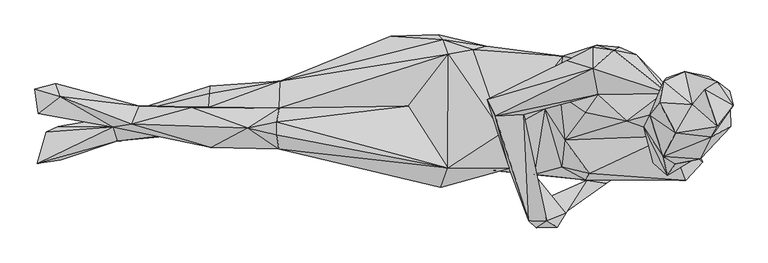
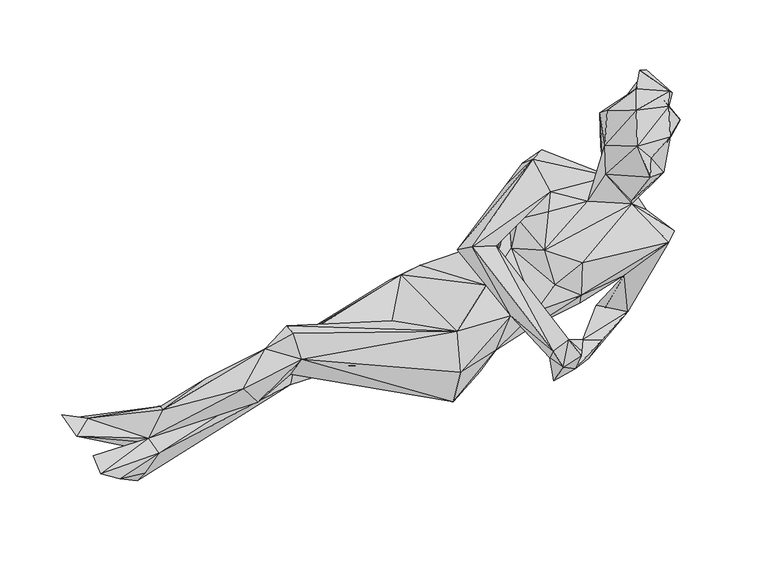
"""IFC4 building model written with IfcOpenShell, lengths in millimetres: geographic element geometry, Enscape AssetDefinition - Asya, Lying : Enscape AssetDefinition - Asya, Lying."""

from ifc_helpers import new_model, si_unit, origin, place, context, project, spatial, faceted_brep, source, transform, mapped, element, save


def geographic_element_3ec232f4(model_context):
    return source(origin(), model_context, "Body", "Brep", [
        faceted_brep([(-295.1279283, 1.0042854, 263.5008693), (80.7586461, -99.4649455, 178.1118065), (-6.4246482, 36.7893986, 155.0975889), (199.4558573, -22.1141279, 213.3183777), (81.8750635, 150.1486152, 178.2011241), (-290.825963, -57.5796925, 208.4964067), (-295.2073216, -27.6178494, 261.2194121), (215.4489905, -100.5823612, 173.7344414), (65.2160347, -141.8870687, 99.964112), (-289.8187041, 31.6131599, 181.9860488), (-358.0476046, -11.9035607, 232.08718), (-480.9644222, 33.1354663, 168.9978242), (-612.4712229, -2.9106415, 151.7612189), (-438.3080602, -54.1728623, 178.3360839), (-595.9749222, 36.3706127, 131.2517673), (-769.7321773, 56.9763258, 146.9739974), (-654.0368795, -9.6776597, 93.7399268), (-788.8275385, 78.7093788, 116.9674993), (-671.4203954, 46.5514064, 42.6196121), (-444.8795915, 32.9965316, 133.5580498), (-649.5782137, 13.0398329, 67.6979721), (-779.2798877, 86.1958712, 136.0380054), (-818.0112839, 20.0966243, 138.9456689), (-825.2963424, 73.4775737, 166.3571), (-687.8233552, -20.413192, -2.9711765), (-774.0758061, -8.9542167, 49.8937331), (-443.241179, 63.7651756, 120.9588349), (-441.6027665, 79.8516124, 86.9222954), (-820.2164173, -89.6046832, 105.1651537), (-800.1406193, -20.3328095, 103.7262157), (-644.6381211, -39.8816429, 68.2854578), (-768.3855891, -82.513161, 69.3949312), (-275.0422359, 2.4452168, 146.8310952), (-397.3804712, -48.3615063, 124.5849878), (-684.9961281, -49.0611307, 33.623714), (-290.4498875, -6.5199165, 108.8905409), (-438.3259416, 36.9491689, 40.2855426), (-276.5168846, 62.038444, 82.8604922), (-109.3063429, 52.4262786, 59.1109321), (-287.0509923, 91.1954716, 131.7658126), (57.8982458, 95.5976471, -11.4798164), (-45.2573523, 189.7097081, 64.9401546), (15.5039039, 27.1425005, 31.9267511), (137.5126839, 151.5806168, 30.8490284), (93.768701, -62.4026433, -1.8378821), (151.6044289, 101.6382575, -5.2973079), (-306.8568408, -36.2733603, 159.8987132), (49.6734232, -136.0112131, 21.8174048), (160.6439799, -62.5326484, 20.915335), (195.7731396, -49.4779274, 64.3725172), (189.7374988, 117.8546846, 70.2840984), (175.5018532, -105.2505001, 97.490117), (270.0227797, -114.2136529, 173.3265668), (381.5381527, -125.5753785, 185.634017), (300.3776073, -164.0369147, 117.8755239), (257.9783201, -215.6494558, 133.6255372), (184.9085987, 14.7050405, 300.0799119), (167.122215, 50.1100719, 276.5139341), (259.4370842, -196.4578778, 103.168495), (339.5983279, -199.8140961, 95.0409248), (384.7058415, -126.6610324, 65.1902333), (266.8471634, -203.0055821, 42.7208357), (274.151057, -231.455043, 94.5993289), (381.5063834, -154.3136239, 32.4834734), (315.269202, -213.6994302, 65.5216873), (320.3313351, -229.63503, 107.8862548), (297.6614833, -215.3428048, 149.6573836), (428.0885756, -134.0036243, 54.2840101), (246.7277348, 17.4549166, 278.9273858), (292.7482128, 30.0719962, 249.0369827), (329.996109, -97.6736993, 215.0163203), (336.8385434, -37.9266627, 269.7876096), (321.113348, 89.5133838, 277.708739), (326.3768852, 60.5766699, 296.5569496), (391.0163641, -111.9133234, 261.3672614), (472.3694324, 3.2639278, 328.6494315), (565.7451749, -29.0429033, 309.3893826), (382.009536, 21.6566417, 321.260184), (409.4845057, 61.1899607, 340.9310877), (397.9699314, 118.2992682, 398.7042904), (563.482523, 64.2772466, 326.7549574), (208.8913769, 37.9097909, 268.5312331), (341.0978019, 136.0886097, 338.2070363), (332.8561485, 146.4579552, 192.9944903), (136.4974678, 159.8947495, 178.9384484), (365.7057881, 139.6194845, 295.8493829), (398.720175, 165.9234315, 358.2153022), (407.0045352, 169.8145419, 271.7514932), (164.7603661, 168.4281975, 135.4733407), (357.324183, 140.7081336, 156.4114988), (447.7743506, 155.4965228, 235.2230847), (456.3534558, 166.229099, 291.2268937), (444.5560873, 159.1216922, 382.3191524), (494.097501, 149.3269354, 310.7013106), (475.4914343, 117.627427, 174.125433), (600.0784039, 39.7169106, 306.7040145), (540.4722691, 55.2605093, 379.088968), (627.6595592, 63.7909845, 366.1801219), (605.9562564, -23.190856, 275.7478058), (572.6947784, 36.8459634, 222.5296199), (391.9372857, 77.5800571, 105.313018), (523.2912302, -69.1994354, 156.0889781), (593.1972265, -25.9447005, 193.7496811), (639.6176815, -86.2276331, 244.7906137), (515.2549744, 17.6861417, 4.1908077), (545.4599857, -16.678879, 10.4209501), (602.7528644, -126.9875318, 251.639992), (495.8490729, 6.32938, 39.5412557), (540.9089327, -54.3088205, 43.0453382), (414.7470593, -62.3530261, 115.7290116), (59.7510114, 192.8079128, 100.2072468), (70.8130449, 182.3661178, 147.9197294), (612.9515171, -35.2869369, 379.6049953), (531.5240026, -88.1716982, 364.9386764), (614.4311428, -84.4274536, 410.4391634), (509.8435879, -9.9356771, 396.0407376), (654.9677849, -12.7450963, 411.8106067), (652.2347927, 100.7937416, 439.2776489), (559.2460632, 97.4355415, 388.8976276), (700.9783387, -8.1861168, 475.6025672), (633.9879036, -79.6253458, 495.8163202), (698.3912587, 69.2143217, 489.6258712), (600.0446677, 112.3231724, 454.2545676), (553.7393689, 91.299668, 485.0043952), (523.0818391, 16.0983391, 453.3237219), (616.1936522, 40.1485935, 558.278501), (544.854641, 43.6358042, 523.9233971), (671.0929275, 90.251714, 559.7382784), (580.254674, -22.9407754, 551.1472821), (671.6764569, -8.9641409, 561.8113875), (644.0674663, 72.4147335, 579.5550346), (553.2322526, -74.6952146, 496.2351024), (658.0719352, -31.585373, 541.0280228), (706.1039805, 36.9799323, 518.0643797), (579.2235732, -91.2391394, 465.4803574), (561.5394711, -115.8858091, 434.2303872)], [[[0, 1, 2]], [[1, 3, 4]], [[5, 1, 6]], [[1, 4, 2]], [[7, 1, 8]], [[3, 1, 7]], [[6, 1, 0]], [[5, 8, 1]], [[0, 2, 9]], [[9, 2, 4]], [[0, 10, 6]], [[9, 10, 0]], [[10, 5, 6]], [[11, 12, 10]], [[13, 5, 10]], [[12, 13, 10]], [[11, 10, 9]], [[11, 14, 12]], [[15, 12, 14]], [[15, 16, 12]], [[16, 13, 12]], [[9, 14, 11]], [[17, 14, 18]], [[9, 19, 14]], [[18, 14, 20]], [[20, 14, 19]], [[15, 14, 21]], [[21, 14, 17]], [[17, 18, 22]], [[18, 20, 22]], [[17, 22, 23]], [[21, 17, 23]], [[21, 23, 15]], [[22, 15, 23]], [[22, 16, 15]], [[16, 22, 20]], [[20, 24, 25]], [[20, 25, 16]], [[26, 20, 19]], [[27, 20, 26]], [[27, 24, 20]], [[28, 25, 24]], [[29, 16, 25]], [[28, 29, 25]], [[30, 28, 31]], [[16, 29, 28]], [[30, 16, 28]], [[31, 28, 24]], [[32, 16, 30]], [[16, 33, 13]], [[16, 32, 33]], [[34, 24, 30]], [[30, 24, 35]], [[30, 31, 34]], [[32, 30, 35]], [[31, 24, 34]], [[35, 24, 36]], [[27, 36, 24]], [[37, 35, 36]], [[35, 38, 32]], [[37, 38, 35]], [[37, 36, 27]], [[26, 39, 27]], [[37, 27, 39]], [[40, 37, 41]], [[39, 41, 37]], [[38, 37, 40]], [[40, 42, 38]], [[32, 38, 42]], [[43, 40, 41]], [[44, 42, 40]], [[44, 40, 45]], [[45, 40, 43]], [[32, 42, 44]], [[32, 46, 33]], [[46, 32, 44]], [[47, 44, 48]], [[46, 44, 47]], [[48, 44, 45]], [[49, 45, 50]], [[45, 43, 50]], [[48, 45, 49]], [[51, 48, 49]], [[47, 48, 51]], [[5, 47, 8]], [[46, 47, 5]], [[51, 8, 47]], [[5, 33, 46]], [[13, 33, 5]], [[52, 7, 51]], [[52, 51, 53]], [[53, 51, 49]], [[7, 8, 51]], [[7, 52, 54]], [[55, 56, 7]], [[3, 7, 57]], [[57, 7, 56]], [[58, 55, 7]], [[58, 7, 54]], [[54, 52, 59]], [[59, 60, 54]], [[60, 58, 54]], [[60, 61, 58]], [[62, 58, 61]], [[58, 62, 55]], [[63, 61, 60]], [[61, 64, 62]], [[61, 63, 64]], [[65, 66, 62]], [[55, 62, 66]], [[64, 65, 62]], [[64, 60, 59]], [[59, 65, 64]], [[67, 60, 64]], [[63, 67, 64]], [[59, 66, 65]], [[59, 52, 66]], [[52, 68, 66]], [[55, 66, 68]], [[52, 69, 3]], [[70, 69, 52]], [[52, 3, 68]], [[53, 70, 52]], [[71, 69, 70]], [[72, 3, 69]], [[73, 72, 69]], [[69, 71, 73]], [[71, 70, 74]], [[53, 74, 70]], [[75, 71, 76]], [[77, 73, 71]], [[71, 75, 77]], [[74, 76, 71]], [[78, 68, 73]], [[72, 73, 68]], [[73, 77, 78]], [[75, 78, 77]], [[78, 79, 56]], [[78, 80, 79]], [[78, 56, 68]], [[80, 78, 75]], [[56, 55, 68]], [[81, 68, 3]], [[81, 72, 68]], [[57, 56, 79]], [[72, 57, 82]], [[72, 81, 57]], [[82, 57, 79]], [[81, 3, 57]], [[83, 84, 3]], [[83, 3, 72]], [[4, 3, 84]], [[83, 72, 85]], [[85, 72, 82]], [[85, 82, 86]], [[86, 82, 79]], [[86, 87, 85]], [[85, 87, 83]], [[88, 84, 83]], [[83, 87, 89]], [[89, 88, 83]], [[90, 89, 87]], [[90, 87, 91]], [[91, 87, 92]], [[87, 86, 92]], [[86, 79, 92]], [[79, 80, 92]], [[93, 92, 80]], [[91, 92, 93]], [[90, 91, 93]], [[90, 94, 89]], [[93, 94, 90]], [[80, 95, 93]], [[93, 95, 94]], [[80, 75, 96]], [[96, 97, 80]], [[95, 80, 97]], [[95, 76, 98]], [[76, 95, 97]], [[99, 94, 95]], [[98, 99, 95]], [[94, 100, 89]], [[94, 99, 100]], [[100, 99, 101]], [[101, 99, 102]], [[102, 99, 103]], [[98, 103, 99]], [[98, 76, 103]], [[104, 103, 105]], [[76, 106, 103]], [[106, 105, 103]], [[104, 102, 103]], [[104, 101, 102]], [[63, 104, 105]], [[104, 63, 107]], [[104, 107, 101]], [[105, 108, 63]], [[105, 106, 108]], [[106, 76, 74]], [[53, 106, 74]], [[108, 106, 101]], [[101, 106, 53]], [[60, 67, 108]], [[101, 107, 108]], [[60, 108, 107]], [[63, 108, 67]], [[63, 60, 107]], [[101, 53, 109]], [[109, 100, 101]], [[53, 49, 109]], [[49, 100, 109]], [[49, 50, 100]], [[89, 100, 50]], [[50, 88, 89]], [[88, 50, 43]], [[43, 110, 88]], [[111, 88, 110]], [[111, 84, 88]], [[43, 41, 110]], [[111, 110, 41]], [[4, 84, 111]], [[39, 4, 111]], [[39, 111, 41]], [[4, 39, 9]], [[19, 9, 39]], [[26, 19, 39]], [[97, 112, 76]], [[113, 76, 114]], [[76, 113, 115]], [[112, 114, 76]], [[75, 76, 115]], [[97, 116, 112]], [[114, 112, 116]], [[117, 116, 97]], [[118, 117, 97]], [[96, 118, 97]], [[116, 119, 120]], [[117, 119, 116]], [[114, 116, 120]], [[119, 117, 121]], [[122, 121, 117]], [[118, 122, 117]], [[118, 123, 122]], [[118, 96, 123]], [[75, 124, 96]], [[123, 96, 124]], [[122, 123, 125]], [[123, 124, 126]], [[123, 126, 125]], [[121, 122, 127]], [[127, 122, 125]], [[128, 129, 125]], [[126, 128, 125]], [[130, 125, 129]], [[127, 125, 130]], [[124, 128, 126]], [[124, 131, 128]], [[131, 132, 128]], [[132, 129, 128]], [[129, 133, 130]], [[129, 132, 133]], [[127, 130, 133]], [[133, 121, 127]], [[132, 121, 133]], [[132, 131, 120]], [[119, 132, 120]], [[119, 121, 132]], [[131, 134, 120]], [[114, 120, 134]], [[114, 134, 135]], [[131, 135, 134]], [[135, 113, 114]], [[135, 115, 113]], [[131, 115, 135]], [[124, 115, 131]], [[115, 124, 75]]]),
    ])


if __name__ == "__main__":
    model = new_model("IFC4")
    model_context = context("Model", 3, world=origin())
    ifc_project = project(units=[si_unit("LENGTHUNIT", "METRE", prefix="MILLI")], contexts=[model_context])
    site = spatial("IfcSite", under=ifc_project)
    building = spatial("IfcBuilding", under=site)
    placement = place(None, origin())
    geographic_element_shape = geographic_element_3ec232f4(model_context)
    element("IfcGeographicElement", 1, ObjectType="Enscape AssetDefinition - Asya, Lying : Enscape AssetDefinition - Asya, Lying", at=placement, inside=building, context=model_context, shape_type="MappedRepresentation", body=[
        mapped(geographic_element_shape, transform((0.0, 0.0, 0.0), x_axis=(1.0, 0.0, 0.0), y_axis=(0.0, 1.0, 0.0), z_axis=(0.0, 0.0, 1.0))),
    ])
    save(model, "model.ifc")
